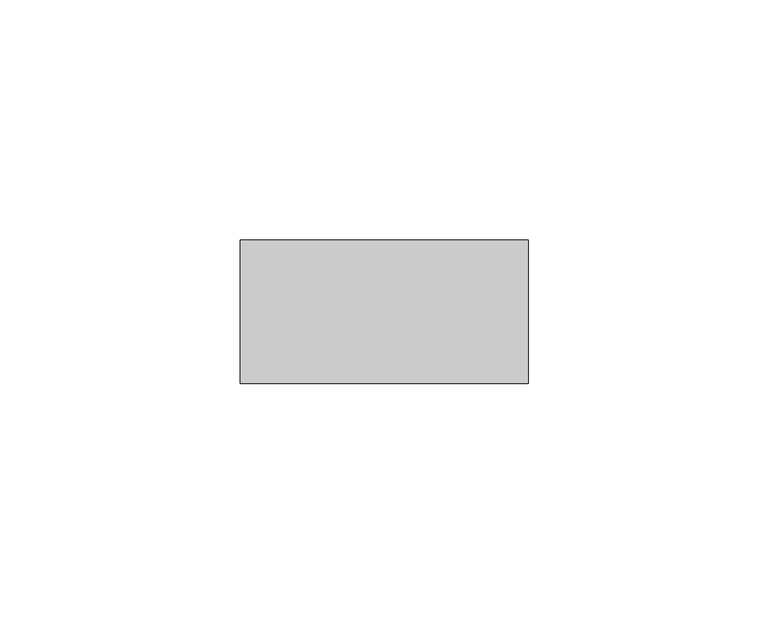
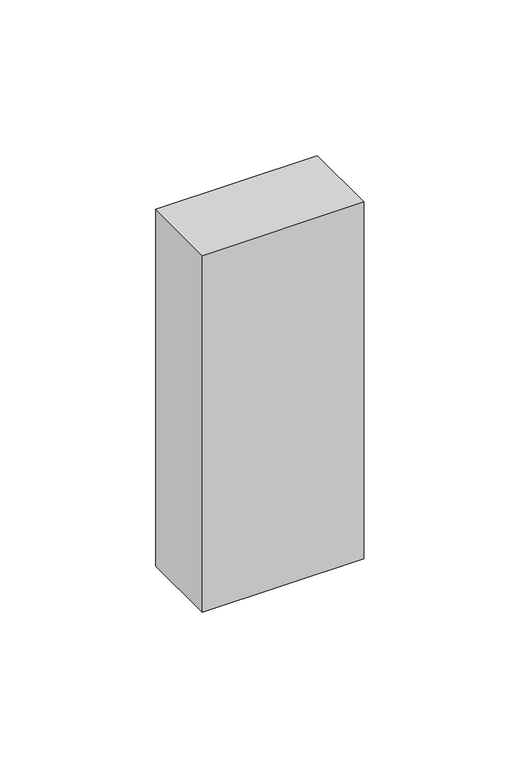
"""IFC4 building model written with IfcOpenShell, lengths in millimetres: proxy geometry, Zutrittskontrollanlage : Zutrittskontrollanlage."""

from ifc_helpers import new_model, si_unit, frame, origin, place, context, project, spatial, polyline, outline, extrude, source, transform, mapped, element, save


def electrical_fixtures_bf902562(model_context):
    return source(origin(), model_context, "Body", "SweptSolid", [
        extrude(outline(polyline([(60.0, 0.0), (0.0, 0.0), (0.0, 30.0), (60.0, 30.0), (60.0, 0.0)])), frame((0.0, 0.0, 980.0), z_axis=(0.0, 0.0, 1.0), x_axis=(1.0, 0.0, 0.0)), (0.0, 0.0, 1.0), 140.0),
    ])


if __name__ == "__main__":
    model = new_model("IFC4")
    model_context = context("Model", 3, world=origin())
    ifc_project = project(units=[si_unit("LENGTHUNIT", "METRE", prefix="MILLI")], contexts=[model_context])
    site = spatial("IfcSite", under=ifc_project)
    building = spatial("IfcBuilding", under=site)
    placement = place(None, origin())
    electrical_fixtures_shape = electrical_fixtures_bf902562(model_context)
    element("IfcBuildingElementProxy", 1, Name="Zutrittskontrollanlage : Zutrittskontrollanlage", ObjectType="Zutrittskontrollanlage : Zutrittskontrollanlage", at=placement, inside=building, context=model_context, shape_type="MappedRepresentation", body=[
        mapped(electrical_fixtures_shape, transform((0.0, 0.0, 0.0), x_axis=(1.0, 0.0, 0.0), y_axis=(0.0, 1.0, 0.0), z_axis=(0.0, 0.0, 1.0))),
    ])
    save(model, "model.ifc")
